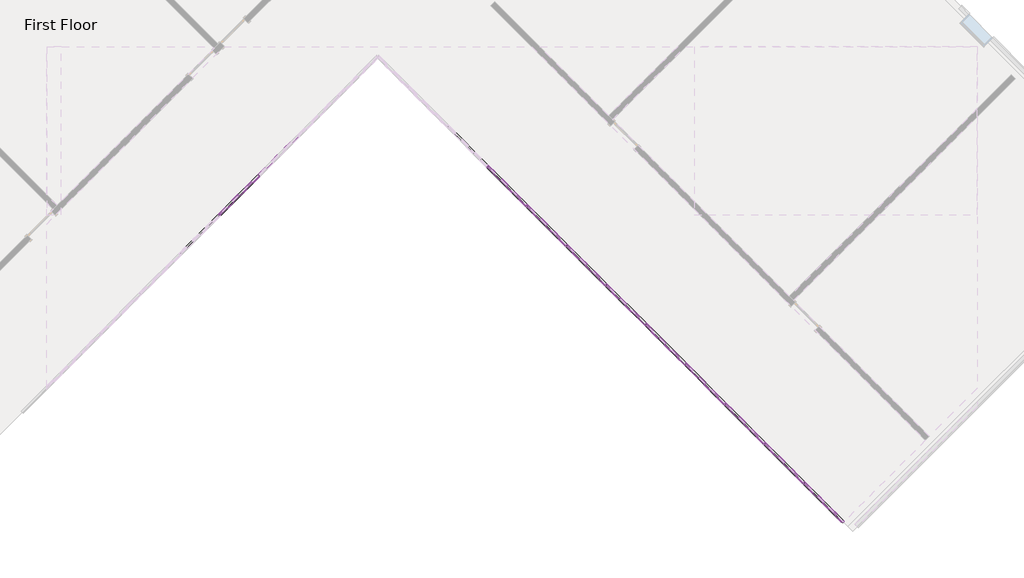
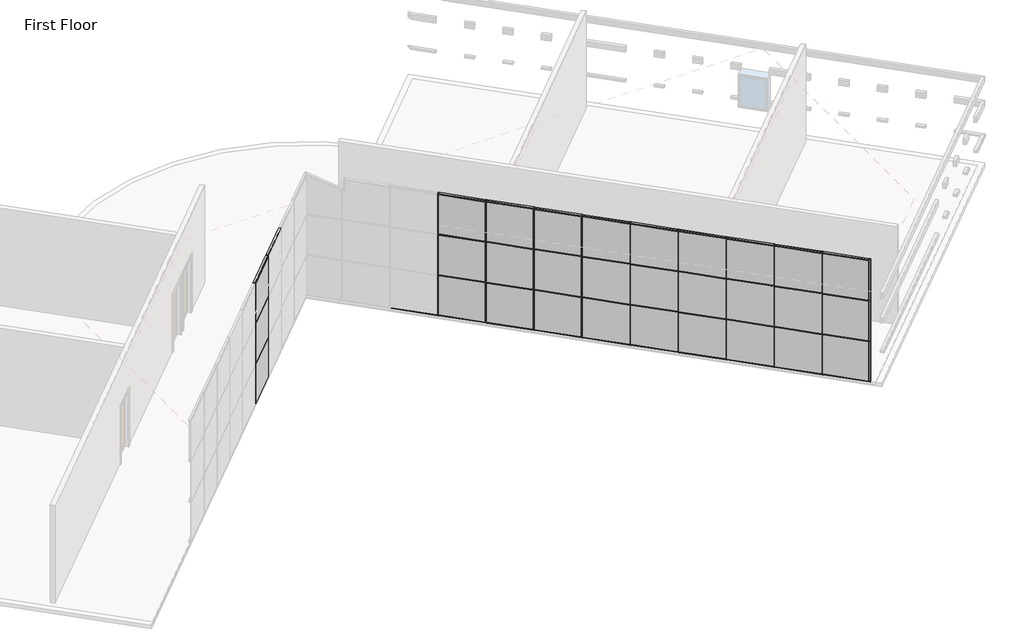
# One storey, part 2 of 7: 81 members, 30 plates.
"""IFC4 building model written with IfcOpenShell, lengths in millimetres."""

from ifc_helpers import new_model, si_unit, origin, place, context, project, spatial, transform, mapped, element, save
from components import member_4c538f64, member_155beb68, member_9952366a, member_42be4715, member_6121af53, member_3d68c01a, member_b87a50da, system_panel_glazed_ca335f2d, system_panel_glazed_da345f4e, system_panel_glazed_1c4746fc, system_panel_glazed_f1e4c5b0, system_panel_solid_cb9a7247, system_panel_solid_64e13288, system_panel_solid_2f1037e2

model = new_model("IFC4")

# Units and contexts
model_context = context("Model", 3, world=origin())
ifc_project = project(units=[si_unit("LENGTHUNIT", "METRE", prefix="MILLI")], contexts=[model_context])

# Site, building, storey
site = spatial("IfcSite", under=ifc_project)
building = spatial("IfcBuilding", under=site)
storey = spatial("IfcBuildingStorey", under=building, Name="First Floor", Elevation=0.0)

# Members
placement = place(None, origin())
member_shape = member_4c538f64(model_context)
element("IfcMember", 1, ObjectType="Rectangular Mullion : 1.5\" x 2.5\" Rectangular", at=placement, inside=storey, context=model_context, shape_type="MappedRepresentation", body=[
    mapped(member_shape, transform((9787.3975743, -9702.8925106, 0.0), x_axis=(0.0, 0.0, -1.0), y_axis=(0.7071067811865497, 0.7071067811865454, 0.0), z_axis=(0.7071067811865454, -0.7071067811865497, 0.0))),
])
member_2_shape = member_155beb68(model_context)
element("IfcMember", 2, ObjectType="Rectangular Mullion : 1.5\" x 2.5\" Rectangular", at=placement, inside=storey, context=model_context, shape_type="MappedRepresentation", body=[
    mapped(member_2_shape, transform((-6100.9205681, -280.3587758, 0.0), x_axis=(-0.7071067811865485, -0.7071067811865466, 0.0), y_axis=(-0.7071067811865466, 0.7071067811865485, 0.0), z_axis=(0.0, 0.0, -1.0))),
])
element("IfcMember", 3, ObjectType="Rectangular Mullion : 1.5\" x 2.5\" Rectangular", at=placement, inside=storey, context=model_context, shape_type="MappedRepresentation", body=[
    mapped(member_2_shape, transform((-7178.5513026, -1357.9895103, 0.0), x_axis=(-0.7071067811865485, -0.7071067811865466, 0.0), y_axis=(-0.7071067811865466, 0.7071067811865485, 0.0), z_axis=(0.0, 0.0, -1.0))),
])
element("IfcMember", 4, ObjectType="Rectangular Mullion : 1.5\" x 2.5\" Rectangular", at=placement, inside=storey, context=model_context, shape_type="MappedRepresentation", body=[
    mapped(member_2_shape, transform((8736.7076079, -8652.2025442, 0.0), x_axis=(-0.7071067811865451, 0.70710678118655, 0.0), y_axis=(0.70710678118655, 0.7071067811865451, 0.0), z_axis=(0.0, 0.0, -1.0))),
])
element("IfcMember", 5, ObjectType="Rectangular Mullion : 1.5\" x 2.5\" Rectangular", at=placement, inside=storey, context=model_context, shape_type="MappedRepresentation", body=[
    mapped(member_2_shape, transform((7659.0768734, -7574.5718097, 0.0), x_axis=(-0.7071067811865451, 0.70710678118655, 0.0), y_axis=(0.70710678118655, 0.7071067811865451, 0.0), z_axis=(0.0, 0.0, -1.0))),
])
element("IfcMember", 6, ObjectType="Rectangular Mullion : 1.5\" x 2.5\" Rectangular", at=placement, inside=storey, context=model_context, shape_type="MappedRepresentation", body=[
    mapped(member_2_shape, transform((6581.4461389, -6496.9410752, 0.0), x_axis=(-0.7071067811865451, 0.70710678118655, 0.0), y_axis=(0.70710678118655, 0.7071067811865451, 0.0), z_axis=(0.0, 0.0, -1.0))),
])
element("IfcMember", 7, ObjectType="Rectangular Mullion : 1.5\" x 2.5\" Rectangular", at=placement, inside=storey, context=model_context, shape_type="MappedRepresentation", body=[
    mapped(member_2_shape, transform((5503.8154043, -5419.3103406, 0.0), x_axis=(-0.7071067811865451, 0.70710678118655, 0.0), y_axis=(0.70710678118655, 0.7071067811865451, 0.0), z_axis=(0.0, 0.0, -1.0))),
])
element("IfcMember", 8, ObjectType="Rectangular Mullion : 1.5\" x 2.5\" Rectangular", at=placement, inside=storey, context=model_context, shape_type="MappedRepresentation", body=[
    mapped(member_2_shape, transform((4426.1846698, -4341.6796061, 0.0), x_axis=(-0.7071067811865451, 0.70710678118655, 0.0), y_axis=(0.70710678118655, 0.7071067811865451, 0.0), z_axis=(0.0, 0.0, -1.0))),
])
element("IfcMember", 9, ObjectType="Rectangular Mullion : 1.5\" x 2.5\" Rectangular", at=placement, inside=storey, context=model_context, shape_type="MappedRepresentation", body=[
    mapped(member_2_shape, transform((3348.5539353, -3264.0488716, 0.0), x_axis=(-0.7071067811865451, 0.70710678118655, 0.0), y_axis=(0.70710678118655, 0.7071067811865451, 0.0), z_axis=(0.0, 0.0, -1.0))),
])
element("IfcMember", 10, ObjectType="Rectangular Mullion : 1.5\" x 2.5\" Rectangular", at=placement, inside=storey, context=model_context, shape_type="MappedRepresentation", body=[
    mapped(member_2_shape, transform((2270.9232008, -2186.418137, 0.0), x_axis=(-0.7071067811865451, 0.70710678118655, 0.0), y_axis=(0.70710678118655, 0.7071067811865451, 0.0), z_axis=(0.0, 0.0, -1.0))),
])
element("IfcMember", 11, ObjectType="Rectangular Mullion : 1.5\" x 2.5\" Rectangular", at=placement, inside=storey, context=model_context, shape_type="MappedRepresentation", body=[
    mapped(member_2_shape, transform((1193.2924662, -1108.7874025, 0.0), x_axis=(-0.7071067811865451, 0.70710678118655, 0.0), y_axis=(0.70710678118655, 0.7071067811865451, 0.0), z_axis=(0.0, 0.0, -1.0))),
])
element("IfcMember", 12, ObjectType="Rectangular Mullion : 1.5\" x 2.5\" Rectangular", at=placement, inside=storey, context=model_context, shape_type="MappedRepresentation", body=[
    mapped(member_2_shape, transform((115.6617317, -31.156668, 0.0), x_axis=(-0.7071067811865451, 0.70710678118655, 0.0), y_axis=(0.70710678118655, 0.7071067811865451, 0.0), z_axis=(0.0, 0.0, -1.0))),
])
member_3_shape = member_9952366a(model_context)
element("IfcMember", 13, ObjectType="Rectangular Mullion : 1.5\" x 2.5\" Rectangular", at=placement, inside=storey, context=model_context, shape_type="MappedRepresentation", body=[
    mapped(member_3_shape, transform((8750.1779921, -8665.6729284, 1524.0), x_axis=(0.0, 0.0, 1.0), y_axis=(0.7071067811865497, 0.7071067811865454, 0.0), z_axis=(-0.7071067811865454, 0.7071067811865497, 0.0))),
])
element("IfcMember", 14, ObjectType="Rectangular Mullion : 1.5\" x 2.5\" Rectangular", at=placement, inside=storey, context=model_context, shape_type="MappedRepresentation", body=[
    mapped(member_3_shape, transform((8750.1779921, -8665.6729284, 3048.0), x_axis=(0.0, 0.0, 1.0), y_axis=(0.7071067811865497, 0.7071067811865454, 0.0), z_axis=(-0.7071067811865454, 0.7071067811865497, 0.0))),
])
member_4_shape = member_42be4715(model_context)
element("IfcMember", 15, ObjectType="Rectangular Mullion : 1.5\" x 2.5\" Rectangular", at=placement, inside=storey, context=model_context, shape_type="MappedRepresentation", body=[
    mapped(member_4_shape, transform((-6087.4501839, -266.8883916, 1524.0), x_axis=(0.0, 0.0, 1.0), y_axis=(-0.7071067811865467, 0.7071067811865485, 0.0), z_axis=(-0.7071067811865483, -0.7071067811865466, 0.0))),
])
element("IfcMember", 16, ObjectType="Rectangular Mullion : 1.5\" x 2.5\" Rectangular", at=placement, inside=storey, context=model_context, shape_type="MappedRepresentation", body=[
    mapped(member_4_shape, transform((-7165.0809185, -1344.5191261, 1524.0), x_axis=(0.0, 0.0, 1.0), y_axis=(-0.7071067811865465, 0.7071067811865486, 0.0), z_axis=(-0.7071067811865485, -0.7071067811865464, 0.0))),
])
element("IfcMember", 17, ObjectType="Rectangular Mullion : 1.5\" x 2.5\" Rectangular", at=placement, inside=storey, context=model_context, shape_type="MappedRepresentation", body=[
    mapped(member_4_shape, transform((-6087.4501839, -266.8883916, 3048.0), x_axis=(0.0, 0.0, 1.0), y_axis=(-0.7071067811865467, 0.7071067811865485, 0.0), z_axis=(-0.7071067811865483, -0.7071067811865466, 0.0))),
])
element("IfcMember", 18, ObjectType="Rectangular Mullion : 1.5\" x 2.5\" Rectangular", at=placement, inside=storey, context=model_context, shape_type="MappedRepresentation", body=[
    mapped(member_4_shape, transform((-7165.0809185, -1344.5191261, 3048.0), x_axis=(0.0, 0.0, 1.0), y_axis=(-0.7071067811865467, 0.7071067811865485, 0.0), z_axis=(-0.7071067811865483, -0.7071067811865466, 0.0))),
])
element("IfcMember", 19, ObjectType="Rectangular Mullion : 1.5\" x 2.5\" Rectangular", at=placement, inside=storey, context=model_context, shape_type="MappedRepresentation", body=[
    mapped(member_4_shape, transform((7672.5472576, -7588.0421939, 1524.0), x_axis=(0.0, 0.0, 1.0), y_axis=(0.7071067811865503, 0.7071067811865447, 0.0), z_axis=(-0.7071067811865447, 0.7071067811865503, 0.0))),
])
element("IfcMember", 20, ObjectType="Rectangular Mullion : 1.5\" x 2.5\" Rectangular", at=placement, inside=storey, context=model_context, shape_type="MappedRepresentation", body=[
    mapped(member_4_shape, transform((6594.9165231, -6510.4114593, 1524.0), x_axis=(0.0, 0.0, 1.0), y_axis=(0.7071067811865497, 0.7071067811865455, 0.0), z_axis=(-0.7071067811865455, 0.7071067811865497, 0.0))),
])
element("IfcMember", 21, ObjectType="Rectangular Mullion : 1.5\" x 2.5\" Rectangular", at=placement, inside=storey, context=model_context, shape_type="MappedRepresentation", body=[
    mapped(member_4_shape, transform((5517.2857885, -5432.7807248, 1524.0), x_axis=(0.0, 0.0, 1.0), y_axis=(0.70710678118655, 0.707106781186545, 0.0), z_axis=(-0.707106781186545, 0.70710678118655, 0.0))),
])
element("IfcMember", 22, ObjectType="Rectangular Mullion : 1.5\" x 2.5\" Rectangular", at=placement, inside=storey, context=model_context, shape_type="MappedRepresentation", body=[
    mapped(member_4_shape, transform((4439.655054, -4355.1499903, 1524.0), x_axis=(0.0, 0.0, 1.0), y_axis=(0.70710678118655, 0.707106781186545, 0.0), z_axis=(-0.707106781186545, 0.70710678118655, 0.0))),
])
element("IfcMember", 23, ObjectType="Rectangular Mullion : 1.5\" x 2.5\" Rectangular", at=placement, inside=storey, context=model_context, shape_type="MappedRepresentation", body=[
    mapped(member_4_shape, transform((3362.0243195, -3277.5192558, 1524.0), x_axis=(0.0, 0.0, 1.0), y_axis=(0.70710678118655, 0.707106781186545, 0.0), z_axis=(-0.707106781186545, 0.70710678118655, 0.0))),
])
element("IfcMember", 24, ObjectType="Rectangular Mullion : 1.5\" x 2.5\" Rectangular", at=placement, inside=storey, context=model_context, shape_type="MappedRepresentation", body=[
    mapped(member_4_shape, transform((2284.3935849, -2199.8885212, 1524.0), x_axis=(0.0, 0.0, 1.0), y_axis=(0.70710678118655, 0.707106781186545, 0.0), z_axis=(-0.707106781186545, 0.70710678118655, 0.0))),
])
element("IfcMember", 25, ObjectType="Rectangular Mullion : 1.5\" x 2.5\" Rectangular", at=placement, inside=storey, context=model_context, shape_type="MappedRepresentation", body=[
    mapped(member_4_shape, transform((1206.7628504, -1122.2577867, 1524.0), x_axis=(0.0, 0.0, 1.0), y_axis=(0.7071067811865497, 0.7071067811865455, 0.0), z_axis=(-0.7071067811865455, 0.7071067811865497, 0.0))),
])
element("IfcMember", 26, ObjectType="Rectangular Mullion : 1.5\" x 2.5\" Rectangular", at=placement, inside=storey, context=model_context, shape_type="MappedRepresentation", body=[
    mapped(member_4_shape, transform((129.1321159, -44.6270522, 1524.0), x_axis=(0.0, 0.0, 1.0), y_axis=(0.7071067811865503, 0.7071067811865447, 0.0), z_axis=(-0.7071067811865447, 0.7071067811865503, 0.0))),
])
element("IfcMember", 27, ObjectType="Rectangular Mullion : 1.5\" x 2.5\" Rectangular", at=placement, inside=storey, context=model_context, shape_type="MappedRepresentation", body=[
    mapped(member_4_shape, transform((7672.5472576, -7588.0421939, 3048.0), x_axis=(0.0, 0.0, 1.0), y_axis=(0.7071067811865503, 0.7071067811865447, 0.0), z_axis=(-0.7071067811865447, 0.7071067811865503, 0.0))),
])
element("IfcMember", 28, ObjectType="Rectangular Mullion : 1.5\" x 2.5\" Rectangular", at=placement, inside=storey, context=model_context, shape_type="MappedRepresentation", body=[
    mapped(member_4_shape, transform((6594.9165231, -6510.4114593, 3048.0), x_axis=(0.0, 0.0, 1.0), y_axis=(0.7071067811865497, 0.7071067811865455, 0.0), z_axis=(-0.7071067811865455, 0.7071067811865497, 0.0))),
])
element("IfcMember", 29, ObjectType="Rectangular Mullion : 1.5\" x 2.5\" Rectangular", at=placement, inside=storey, context=model_context, shape_type="MappedRepresentation", body=[
    mapped(member_4_shape, transform((5517.2857885, -5432.7807248, 3048.0), x_axis=(0.0, 0.0, 1.0), y_axis=(0.7071067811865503, 0.7071067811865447, 0.0), z_axis=(-0.7071067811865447, 0.7071067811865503, 0.0))),
])
element("IfcMember", 30, ObjectType="Rectangular Mullion : 1.5\" x 2.5\" Rectangular", at=placement, inside=storey, context=model_context, shape_type="MappedRepresentation", body=[
    mapped(member_4_shape, transform((4439.655054, -4355.1499903, 3048.0), x_axis=(0.0, 0.0, 1.0), y_axis=(0.7071067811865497, 0.7071067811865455, 0.0), z_axis=(-0.7071067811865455, 0.7071067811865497, 0.0))),
])
element("IfcMember", 31, ObjectType="Rectangular Mullion : 1.5\" x 2.5\" Rectangular", at=placement, inside=storey, context=model_context, shape_type="MappedRepresentation", body=[
    mapped(member_4_shape, transform((3362.0243195, -3277.5192558, 3048.0), x_axis=(0.0, 0.0, 1.0), y_axis=(0.70710678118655, 0.707106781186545, 0.0), z_axis=(-0.707106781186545, 0.70710678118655, 0.0))),
])
element("IfcMember", 32, ObjectType="Rectangular Mullion : 1.5\" x 2.5\" Rectangular", at=placement, inside=storey, context=model_context, shape_type="MappedRepresentation", body=[
    mapped(member_4_shape, transform((2284.3935849, -2199.8885212, 3048.0), x_axis=(0.0, 0.0, 1.0), y_axis=(0.70710678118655, 0.707106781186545, 0.0), z_axis=(-0.707106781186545, 0.70710678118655, 0.0))),
])
element("IfcMember", 33, ObjectType="Rectangular Mullion : 1.5\" x 2.5\" Rectangular", at=placement, inside=storey, context=model_context, shape_type="MappedRepresentation", body=[
    mapped(member_4_shape, transform((1206.7628504, -1122.2577867, 3048.0), x_axis=(0.0, 0.0, 1.0), y_axis=(0.7071067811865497, 0.7071067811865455, 0.0), z_axis=(-0.7071067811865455, 0.7071067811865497, 0.0))),
])
element("IfcMember", 34, ObjectType="Rectangular Mullion : 1.5\" x 2.5\" Rectangular", at=placement, inside=storey, context=model_context, shape_type="MappedRepresentation", body=[
    mapped(member_4_shape, transform((129.1321159, -44.6270522, 3048.0), x_axis=(0.0, 0.0, 1.0), y_axis=(0.7071067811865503, 0.7071067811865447, 0.0), z_axis=(-0.7071067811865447, 0.7071067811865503, 0.0))),
])
member_5_shape = member_6121af53(model_context)
element("IfcMember", 35, ObjectType="Rectangular Mullion : 1.5\" x 2.5\" Rectangular", at=placement, inside=storey, context=model_context, shape_type="MappedRepresentation", body=[
    mapped(member_5_shape, transform((-6114.3909523, -293.82916, 0.0), x_axis=(0.0, 0.0, -1.0), y_axis=(-0.7071067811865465, 0.7071067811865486, 0.0), z_axis=(0.7071067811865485, 0.7071067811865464, 0.0))),
])
element("IfcMember", 36, ObjectType="Rectangular Mullion : 1.5\" x 2.5\" Rectangular", at=placement, inside=storey, context=model_context, shape_type="MappedRepresentation", body=[
    mapped(member_5_shape, transform((-7192.0216868, -1371.4598945, 0.0), x_axis=(0.0, 0.0, -1.0), y_axis=(-0.7071067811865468, 0.7071067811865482, 0.0), z_axis=(0.7071067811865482, 0.7071067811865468, 0.0))),
])
element("IfcMember", 37, ObjectType="Rectangular Mullion : 1.5\" x 2.5\" Rectangular", at=placement, inside=storey, context=model_context, shape_type="MappedRepresentation", body=[
    mapped(member_5_shape, transform((8723.2372237, -8638.73216, 0.0), x_axis=(0.0, 0.0, -1.0), y_axis=(0.7071067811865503, 0.7071067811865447, 0.0), z_axis=(0.7071067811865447, -0.7071067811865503, 0.0))),
])
element("IfcMember", 38, ObjectType="Rectangular Mullion : 1.5\" x 2.5\" Rectangular", at=placement, inside=storey, context=model_context, shape_type="MappedRepresentation", body=[
    mapped(member_5_shape, transform((7645.6064892, -7561.1014255, 0.0), x_axis=(0.0, 0.0, -1.0), y_axis=(0.7071067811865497, 0.7071067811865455, 0.0), z_axis=(0.7071067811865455, -0.7071067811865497, 0.0))),
])
element("IfcMember", 39, ObjectType="Rectangular Mullion : 1.5\" x 2.5\" Rectangular", at=placement, inside=storey, context=model_context, shape_type="MappedRepresentation", body=[
    mapped(member_5_shape, transform((6567.9757547, -6483.470691, 0.0), x_axis=(0.0, 0.0, -1.0), y_axis=(0.70710678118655, 0.707106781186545, 0.0), z_axis=(0.707106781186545, -0.70710678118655, 0.0))),
])
element("IfcMember", 40, ObjectType="Rectangular Mullion : 1.5\" x 2.5\" Rectangular", at=placement, inside=storey, context=model_context, shape_type="MappedRepresentation", body=[
    mapped(member_5_shape, transform((5490.3450202, -5405.8399565, 0.0), x_axis=(0.0, 0.0, -1.0), y_axis=(0.70710678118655, 0.707106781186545, 0.0), z_axis=(0.707106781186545, -0.70710678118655, 0.0))),
])
element("IfcMember", 41, ObjectType="Rectangular Mullion : 1.5\" x 2.5\" Rectangular", at=placement, inside=storey, context=model_context, shape_type="MappedRepresentation", body=[
    mapped(member_5_shape, transform((4412.7142856, -4328.2092219, 0.0), x_axis=(0.0, 0.0, -1.0), y_axis=(0.70710678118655, 0.707106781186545, 0.0), z_axis=(0.707106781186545, -0.70710678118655, 0.0))),
])
element("IfcMember", 42, ObjectType="Rectangular Mullion : 1.5\" x 2.5\" Rectangular", at=placement, inside=storey, context=model_context, shape_type="MappedRepresentation", body=[
    mapped(member_5_shape, transform((3335.0835511, -3250.5784874, 0.0), x_axis=(0.0, 0.0, -1.0), y_axis=(0.70710678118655, 0.707106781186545, 0.0), z_axis=(0.707106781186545, -0.70710678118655, 0.0))),
])
element("IfcMember", 43, ObjectType="Rectangular Mullion : 1.5\" x 2.5\" Rectangular", at=placement, inside=storey, context=model_context, shape_type="MappedRepresentation", body=[
    mapped(member_5_shape, transform((2257.4528166, -2172.9477529, 0.0), x_axis=(0.0, 0.0, -1.0), y_axis=(0.70710678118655, 0.707106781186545, 0.0), z_axis=(0.707106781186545, -0.70710678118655, 0.0))),
])
element("IfcMember", 44, ObjectType="Rectangular Mullion : 1.5\" x 2.5\" Rectangular", at=placement, inside=storey, context=model_context, shape_type="MappedRepresentation", body=[
    mapped(member_5_shape, transform((1179.8220821, -1095.3170183, 0.0), x_axis=(0.0, 0.0, -1.0), y_axis=(0.70710678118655, 0.707106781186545, 0.0), z_axis=(0.707106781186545, -0.70710678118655, 0.0))),
])
element("IfcMember", 45, ObjectType="Rectangular Mullion : 1.5\" x 2.5\" Rectangular", at=placement, inside=storey, context=model_context, shape_type="MappedRepresentation", body=[
    mapped(member_5_shape, transform((102.1913475, -17.6862838, 0.0), x_axis=(0.0, 0.0, -1.0), y_axis=(0.7071067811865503, 0.7071067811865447, 0.0), z_axis=(0.7071067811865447, -0.7071067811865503, 0.0))),
])
element("IfcMember", 46, ObjectType="Rectangular Mullion : 1.5\" x 2.5\" Rectangular", at=placement, inside=storey, context=model_context, shape_type="MappedRepresentation", body=[
    mapped(member_shape, transform((8750.1779921, -8665.6729284, 4572.0), x_axis=(0.0, 0.0, 1.0), y_axis=(0.7071067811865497, 0.7071067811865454, 0.0), z_axis=(-0.7071067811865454, 0.7071067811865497, 0.0))),
])
element("IfcMember", 47, ObjectType="Rectangular Mullion : 1.5\" x 2.5\" Rectangular", at=placement, inside=storey, context=model_context, shape_type="MappedRepresentation", body=[
    mapped(member_5_shape, transform((-6087.4501839, -266.8883916, 4567.7666667), x_axis=(0.0, 0.0, 1.0), y_axis=(-0.7071067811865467, 0.7071067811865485, 0.0), z_axis=(-0.7071067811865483, -0.7071067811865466, 0.0))),
])
element("IfcMember", 48, ObjectType="Rectangular Mullion : 1.5\" x 2.5\" Rectangular", at=placement, inside=storey, context=model_context, shape_type="MappedRepresentation", body=[
    mapped(member_5_shape, transform((-7165.0809185, -1344.5191261, 4567.7666667), x_axis=(0.0, 0.0, 1.0), y_axis=(-0.7071067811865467, 0.7071067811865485, 0.0), z_axis=(-0.7071067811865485, -0.7071067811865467, 0.0))),
])
element("IfcMember", 49, ObjectType="Rectangular Mullion : 1.5\" x 2.5\" Rectangular", at=placement, inside=storey, context=model_context, shape_type="MappedRepresentation", body=[
    mapped(member_5_shape, transform((7672.5472576, -7588.0421939, 4572.0), x_axis=(0.0, 0.0, 1.0), y_axis=(0.7071067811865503, 0.7071067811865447, 0.0), z_axis=(-0.7071067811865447, 0.7071067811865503, 0.0))),
])
element("IfcMember", 50, ObjectType="Rectangular Mullion : 1.5\" x 2.5\" Rectangular", at=placement, inside=storey, context=model_context, shape_type="MappedRepresentation", body=[
    mapped(member_5_shape, transform((6594.9165231, -6510.4114593, 4572.0), x_axis=(0.0, 0.0, 1.0), y_axis=(0.7071067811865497, 0.7071067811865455, 0.0), z_axis=(-0.7071067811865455, 0.7071067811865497, 0.0))),
])
element("IfcMember", 51, ObjectType="Rectangular Mullion : 1.5\" x 2.5\" Rectangular", at=placement, inside=storey, context=model_context, shape_type="MappedRepresentation", body=[
    mapped(member_5_shape, transform((5517.2857885, -5432.7807248, 4572.0), x_axis=(0.0, 0.0, 1.0), y_axis=(0.7071067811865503, 0.7071067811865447, 0.0), z_axis=(-0.7071067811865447, 0.7071067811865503, 0.0))),
])
element("IfcMember", 52, ObjectType="Rectangular Mullion : 1.5\" x 2.5\" Rectangular", at=placement, inside=storey, context=model_context, shape_type="MappedRepresentation", body=[
    mapped(member_5_shape, transform((4439.655054, -4355.1499903, 4572.0), x_axis=(0.0, 0.0, 1.0), y_axis=(0.7071067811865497, 0.7071067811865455, 0.0), z_axis=(-0.7071067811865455, 0.7071067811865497, 0.0))),
])
element("IfcMember", 53, ObjectType="Rectangular Mullion : 1.5\" x 2.5\" Rectangular", at=placement, inside=storey, context=model_context, shape_type="MappedRepresentation", body=[
    mapped(member_5_shape, transform((3362.0243195, -3277.5192558, 4572.0), x_axis=(0.0, 0.0, 1.0), y_axis=(0.70710678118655, 0.707106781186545, 0.0), z_axis=(-0.707106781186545, 0.70710678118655, 0.0))),
])
element("IfcMember", 54, ObjectType="Rectangular Mullion : 1.5\" x 2.5\" Rectangular", at=placement, inside=storey, context=model_context, shape_type="MappedRepresentation", body=[
    mapped(member_5_shape, transform((2284.3935849, -2199.8885212, 4572.0), x_axis=(0.0, 0.0, 1.0), y_axis=(0.70710678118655, 0.707106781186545, 0.0), z_axis=(-0.707106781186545, 0.70710678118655, 0.0))),
])
element("IfcMember", 55, ObjectType="Rectangular Mullion : 1.5\" x 2.5\" Rectangular", at=placement, inside=storey, context=model_context, shape_type="MappedRepresentation", body=[
    mapped(member_5_shape, transform((1206.7628504, -1122.2577867, 4572.0), x_axis=(0.0, 0.0, 1.0), y_axis=(0.70710678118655, 0.707106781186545, 0.0), z_axis=(-0.707106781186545, 0.70710678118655, 0.0))),
])
element("IfcMember", 56, ObjectType="Rectangular Mullion : 1.5\" x 2.5\" Rectangular", at=placement, inside=storey, context=model_context, shape_type="MappedRepresentation", body=[
    mapped(member_5_shape, transform((129.1321159, -44.6270522, 4572.0), x_axis=(0.0, 0.0, 1.0), y_axis=(0.70710678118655, 0.707106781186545, 0.0), z_axis=(-0.707106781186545, 0.70710678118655, 0.0))),
])
element("IfcMember", 57, ObjectType="Rectangular Mullion : 1.5\" x 2.5\" Rectangular", at=placement, inside=storey, context=model_context, shape_type="MappedRepresentation", body=[
    mapped(member_2_shape, transform((-6100.9205681, -280.3587758, 1524.0), x_axis=(-0.7071067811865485, -0.7071067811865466, 0.0), y_axis=(-0.7071067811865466, 0.7071067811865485, 0.0), z_axis=(0.0, 0.0, -1.0))),
])
element("IfcMember", 58, ObjectType="Rectangular Mullion : 1.5\" x 2.5\" Rectangular", at=placement, inside=storey, context=model_context, shape_type="MappedRepresentation", body=[
    mapped(member_2_shape, transform((-7178.5513026, -1357.9895103, 1524.0), x_axis=(-0.7071067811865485, -0.7071067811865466, 0.0), y_axis=(-0.7071067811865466, 0.7071067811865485, 0.0), z_axis=(0.0, 0.0, -1.0))),
])
element("IfcMember", 59, ObjectType="Rectangular Mullion : 1.5\" x 2.5\" Rectangular", at=placement, inside=storey, context=model_context, shape_type="MappedRepresentation", body=[
    mapped(member_2_shape, transform((8736.7076079, -8652.2025442, 1524.0), x_axis=(-0.7071067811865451, 0.70710678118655, 0.0), y_axis=(0.70710678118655, 0.7071067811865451, 0.0), z_axis=(0.0, 0.0, -1.0))),
])
element("IfcMember", 60, ObjectType="Rectangular Mullion : 1.5\" x 2.5\" Rectangular", at=placement, inside=storey, context=model_context, shape_type="MappedRepresentation", body=[
    mapped(member_2_shape, transform((7659.0768734, -7574.5718097, 1524.0), x_axis=(-0.7071067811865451, 0.70710678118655, 0.0), y_axis=(0.70710678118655, 0.7071067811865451, 0.0), z_axis=(0.0, 0.0, -1.0))),
])
element("IfcMember", 61, ObjectType="Rectangular Mullion : 1.5\" x 2.5\" Rectangular", at=placement, inside=storey, context=model_context, shape_type="MappedRepresentation", body=[
    mapped(member_2_shape, transform((6581.4461389, -6496.9410752, 1524.0), x_axis=(-0.7071067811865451, 0.70710678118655, 0.0), y_axis=(0.70710678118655, 0.7071067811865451, 0.0), z_axis=(0.0, 0.0, -1.0))),
])
element("IfcMember", 62, ObjectType="Rectangular Mullion : 1.5\" x 2.5\" Rectangular", at=placement, inside=storey, context=model_context, shape_type="MappedRepresentation", body=[
    mapped(member_2_shape, transform((5503.8154043, -5419.3103406, 1524.0), x_axis=(-0.7071067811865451, 0.70710678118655, 0.0), y_axis=(0.70710678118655, 0.7071067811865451, 0.0), z_axis=(0.0, 0.0, -1.0))),
])
element("IfcMember", 63, ObjectType="Rectangular Mullion : 1.5\" x 2.5\" Rectangular", at=placement, inside=storey, context=model_context, shape_type="MappedRepresentation", body=[
    mapped(member_2_shape, transform((4426.1846698, -4341.6796061, 1524.0), x_axis=(-0.7071067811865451, 0.70710678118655, 0.0), y_axis=(0.70710678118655, 0.7071067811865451, 0.0), z_axis=(0.0, 0.0, -1.0))),
])
element("IfcMember", 64, ObjectType="Rectangular Mullion : 1.5\" x 2.5\" Rectangular", at=placement, inside=storey, context=model_context, shape_type="MappedRepresentation", body=[
    mapped(member_2_shape, transform((3348.5539353, -3264.0488716, 1524.0), x_axis=(-0.7071067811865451, 0.70710678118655, 0.0), y_axis=(0.70710678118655, 0.7071067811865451, 0.0), z_axis=(0.0, 0.0, -1.0))),
])
element("IfcMember", 65, ObjectType="Rectangular Mullion : 1.5\" x 2.5\" Rectangular", at=placement, inside=storey, context=model_context, shape_type="MappedRepresentation", body=[
    mapped(member_2_shape, transform((2270.9232008, -2186.418137, 1524.0), x_axis=(-0.7071067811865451, 0.70710678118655, 0.0), y_axis=(0.70710678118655, 0.7071067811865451, 0.0), z_axis=(0.0, 0.0, -1.0))),
])
element("IfcMember", 66, ObjectType="Rectangular Mullion : 1.5\" x 2.5\" Rectangular", at=placement, inside=storey, context=model_context, shape_type="MappedRepresentation", body=[
    mapped(member_2_shape, transform((1193.2924662, -1108.7874025, 1524.0), x_axis=(-0.7071067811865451, 0.70710678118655, 0.0), y_axis=(0.70710678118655, 0.7071067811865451, 0.0), z_axis=(0.0, 0.0, -1.0))),
])
element("IfcMember", 67, ObjectType="Rectangular Mullion : 1.5\" x 2.5\" Rectangular", at=placement, inside=storey, context=model_context, shape_type="MappedRepresentation", body=[
    mapped(member_2_shape, transform((115.6617317, -31.156668, 1524.0), x_axis=(-0.7071067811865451, 0.70710678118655, 0.0), y_axis=(0.70710678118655, 0.7071067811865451, 0.0), z_axis=(0.0, 0.0, -1.0))),
])
member_6_shape = member_3d68c01a(model_context)
element("IfcMember", 68, ObjectType="Rectangular Mullion : 1.5\" x 2.5\" Rectangular", at=placement, inside=storey, context=model_context, shape_type="MappedRepresentation", body=[
    mapped(member_6_shape, transform((-6100.9205681, -280.3587758, 3048.0), x_axis=(-0.7071067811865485, -0.7071067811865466, 0.0), y_axis=(-0.7071067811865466, 0.7071067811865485, 0.0), z_axis=(0.0, 0.0, -1.0))),
])
element("IfcMember", 69, ObjectType="Rectangular Mullion : 1.5\" x 2.5\" Rectangular", at=placement, inside=storey, context=model_context, shape_type="MappedRepresentation", body=[
    mapped(member_6_shape, transform((-7178.5513026, -1357.9895103, 3048.0), x_axis=(-0.7071067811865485, -0.7071067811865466, 0.0), y_axis=(-0.7071067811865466, 0.7071067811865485, 0.0), z_axis=(0.0, 0.0, -1.0))),
])
member_7_shape = member_b87a50da(model_context)
element("IfcMember", 70, ObjectType="Rectangular Mullion : 1.5\" x 2.5\" Rectangular", at=placement, inside=storey, context=model_context, shape_type="MappedRepresentation", body=[
    mapped(member_7_shape, transform((9814.3383427, -9729.833279, 1524.0), x_axis=(0.7071067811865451, -0.70710678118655, 0.0), y_axis=(0.70710678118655, 0.7071067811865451, 0.0), z_axis=(0.0, 0.0, 1.0))),
])
element("IfcMember", 71, ObjectType="Rectangular Mullion : 1.5\" x 2.5\" Rectangular", at=placement, inside=storey, context=model_context, shape_type="MappedRepresentation", body=[
    mapped(member_7_shape, transform((9814.3383427, -9729.833279, 3048.0), x_axis=(0.7071067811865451, -0.70710678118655, 0.0), y_axis=(0.70710678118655, 0.7071067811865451, 0.0), z_axis=(0.0, 0.0, 1.0))),
])
element("IfcMember", 72, ObjectType="Rectangular Mullion : 1.5\" x 2.5\" Rectangular", at=placement, inside=storey, context=model_context, shape_type="MappedRepresentation", body=[
    mapped(member_2_shape, transform((8736.7076079, -8652.2025442, 3048.0), x_axis=(-0.7071067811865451, 0.70710678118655, 0.0), y_axis=(0.70710678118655, 0.7071067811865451, 0.0), z_axis=(0.0, 0.0, -1.0))),
])
element("IfcMember", 73, ObjectType="Rectangular Mullion : 1.5\" x 2.5\" Rectangular", at=placement, inside=storey, context=model_context, shape_type="MappedRepresentation", body=[
    mapped(member_2_shape, transform((7659.0768734, -7574.5718097, 3048.0), x_axis=(-0.7071067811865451, 0.70710678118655, 0.0), y_axis=(0.70710678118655, 0.7071067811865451, 0.0), z_axis=(0.0, 0.0, -1.0))),
])
element("IfcMember", 74, ObjectType="Rectangular Mullion : 1.5\" x 2.5\" Rectangular", at=placement, inside=storey, context=model_context, shape_type="MappedRepresentation", body=[
    mapped(member_2_shape, transform((6581.4461389, -6496.9410752, 3048.0), x_axis=(-0.7071067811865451, 0.70710678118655, 0.0), y_axis=(0.70710678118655, 0.7071067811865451, 0.0), z_axis=(0.0, 0.0, -1.0))),
])
element("IfcMember", 75, ObjectType="Rectangular Mullion : 1.5\" x 2.5\" Rectangular", at=placement, inside=storey, context=model_context, shape_type="MappedRepresentation", body=[
    mapped(member_2_shape, transform((5503.8154043, -5419.3103406, 3048.0), x_axis=(-0.7071067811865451, 0.70710678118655, 0.0), y_axis=(0.70710678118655, 0.7071067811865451, 0.0), z_axis=(0.0, 0.0, -1.0))),
])
element("IfcMember", 76, ObjectType="Rectangular Mullion : 1.5\" x 2.5\" Rectangular", at=placement, inside=storey, context=model_context, shape_type="MappedRepresentation", body=[
    mapped(member_2_shape, transform((4426.1846698, -4341.6796061, 3048.0), x_axis=(-0.7071067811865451, 0.70710678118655, 0.0), y_axis=(0.70710678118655, 0.7071067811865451, 0.0), z_axis=(0.0, 0.0, -1.0))),
])
element("IfcMember", 77, ObjectType="Rectangular Mullion : 1.5\" x 2.5\" Rectangular", at=placement, inside=storey, context=model_context, shape_type="MappedRepresentation", body=[
    mapped(member_2_shape, transform((3348.5539353, -3264.0488716, 3048.0), x_axis=(-0.7071067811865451, 0.70710678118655, 0.0), y_axis=(0.70710678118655, 0.7071067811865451, 0.0), z_axis=(0.0, 0.0, -1.0))),
])
element("IfcMember", 78, ObjectType="Rectangular Mullion : 1.5\" x 2.5\" Rectangular", at=placement, inside=storey, context=model_context, shape_type="MappedRepresentation", body=[
    mapped(member_2_shape, transform((2270.9232008, -2186.418137, 3048.0), x_axis=(-0.7071067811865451, 0.70710678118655, 0.0), y_axis=(0.70710678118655, 0.7071067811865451, 0.0), z_axis=(0.0, 0.0, -1.0))),
])
element("IfcMember", 79, ObjectType="Rectangular Mullion : 1.5\" x 2.5\" Rectangular", at=placement, inside=storey, context=model_context, shape_type="MappedRepresentation", body=[
    mapped(member_2_shape, transform((1193.2924662, -1108.7874025, 3048.0), x_axis=(-0.7071067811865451, 0.70710678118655, 0.0), y_axis=(0.70710678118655, 0.7071067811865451, 0.0), z_axis=(0.0, 0.0, -1.0))),
])
element("IfcMember", 80, ObjectType="Rectangular Mullion : 1.5\" x 2.5\" Rectangular", at=placement, inside=storey, context=model_context, shape_type="MappedRepresentation", body=[
    mapped(member_2_shape, transform((115.6617317, -31.156668, 3048.0), x_axis=(-0.7071067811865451, 0.70710678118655, 0.0), y_axis=(0.70710678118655, 0.7071067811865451, 0.0), z_axis=(0.0, 0.0, -1.0))),
])
element("IfcMember", 81, ObjectType="Rectangular Mullion : 1.5\" x 2.5\" Rectangular", at=placement, inside=storey, context=model_context, shape_type="MappedRepresentation", body=[
    mapped(member_7_shape, transform((9814.3383427, -9729.833279, 4572.0), x_axis=(0.7071067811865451, -0.70710678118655, 0.0), y_axis=(0.70710678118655, 0.7071067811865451, 0.0), z_axis=(0.0, 0.0, 1.0))),
])

# Plates
system_panel_glazed_shape = system_panel_glazed_ca335f2d(model_context)
element("IfcPlate", 82, ObjectType="System Panel : Glazed", at=placement, inside=storey, context=model_context, shape_type="MappedRepresentation", body=[
    mapped(system_panel_glazed_shape, transform((9268.7877832, -9184.2827195, 38.1), x_axis=(-0.7071067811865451, 0.70710678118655, 0.0), y_axis=(-0.70710678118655, -0.7071067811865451, 0.0), z_axis=(0.0, 0.0, 1.0))),
])
system_panel_glazed_2_shape = system_panel_glazed_da345f4e(model_context)
element("IfcPlate", 83, ObjectType="System Panel : Glazed", at=placement, inside=storey, context=model_context, shape_type="MappedRepresentation", body=[
    mapped(system_panel_glazed_2_shape, transform((8197.8922407, -8113.387177, 38.1), x_axis=(-0.7071067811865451, 0.70710678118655, 0.0), y_axis=(-0.70710678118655, -0.7071067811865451, 0.0), z_axis=(0.0, 0.0, 1.0))),
])
element("IfcPlate", 84, ObjectType="System Panel : Glazed", at=placement, inside=storey, context=model_context, shape_type="MappedRepresentation", body=[
    mapped(system_panel_glazed_2_shape, transform((7120.2615061, -7035.7564424, 38.1), x_axis=(-0.7071067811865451, 0.70710678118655, 0.0), y_axis=(-0.70710678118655, -0.7071067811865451, 0.0), z_axis=(0.0, 0.0, 1.0))),
])
element("IfcPlate", 85, ObjectType="System Panel : Glazed", at=placement, inside=storey, context=model_context, shape_type="MappedRepresentation", body=[
    mapped(system_panel_glazed_2_shape, transform((6042.6307716, -5958.1257079, 38.1), x_axis=(-0.7071067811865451, 0.70710678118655, 0.0), y_axis=(-0.70710678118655, -0.7071067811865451, 0.0), z_axis=(0.0, 0.0, 1.0))),
])
element("IfcPlate", 86, ObjectType="System Panel : Glazed", at=placement, inside=storey, context=model_context, shape_type="MappedRepresentation", body=[
    mapped(system_panel_glazed_2_shape, transform((4965.0000371, -4880.4949734, 38.1), x_axis=(-0.7071067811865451, 0.70710678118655, 0.0), y_axis=(-0.70710678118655, -0.7071067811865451, 0.0), z_axis=(0.0, 0.0, 1.0))),
])
element("IfcPlate", 87, ObjectType="System Panel : Glazed", at=placement, inside=storey, context=model_context, shape_type="MappedRepresentation", body=[
    mapped(system_panel_glazed_2_shape, transform((3887.3693026, -3802.8642388, 38.1), x_axis=(-0.7071067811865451, 0.70710678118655, 0.0), y_axis=(-0.70710678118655, -0.7071067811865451, 0.0), z_axis=(0.0, 0.0, 1.0))),
])
element("IfcPlate", 88, ObjectType="System Panel : Glazed", at=placement, inside=storey, context=model_context, shape_type="MappedRepresentation", body=[
    mapped(system_panel_glazed_2_shape, transform((2809.738568, -2725.2335043, 38.1), x_axis=(-0.7071067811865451, 0.70710678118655, 0.0), y_axis=(-0.70710678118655, -0.7071067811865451, 0.0), z_axis=(0.0, 0.0, 1.0))),
])
element("IfcPlate", 89, ObjectType="System Panel : Glazed", at=placement, inside=storey, context=model_context, shape_type="MappedRepresentation", body=[
    mapped(system_panel_glazed_2_shape, transform((1732.1078335, -1647.6027698, 38.1), x_axis=(-0.7071067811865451, 0.70710678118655, 0.0), y_axis=(-0.70710678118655, -0.7071067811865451, 0.0), z_axis=(0.0, 0.0, 1.0))),
])
element("IfcPlate", 90, ObjectType="System Panel : Glazed", at=placement, inside=storey, context=model_context, shape_type="MappedRepresentation", body=[
    mapped(system_panel_glazed_2_shape, transform((654.477099, -569.9720353, 38.1), x_axis=(-0.7071067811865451, 0.70710678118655, 0.0), y_axis=(-0.70710678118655, -0.7071067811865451, 0.0), z_axis=(0.0, 0.0, 1.0))),
])
element("IfcPlate", 91, ObjectType="System Panel : Glazed", at=placement, inside=storey, context=model_context, shape_type="MappedRepresentation", body=[
    mapped(system_panel_glazed_2_shape, transform((-6639.7359354, -819.174143, 38.1), x_axis=(-0.7071067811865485, -0.7071067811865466, 0.0), y_axis=(0.7071067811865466, -0.7071067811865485, 0.0), z_axis=(0.0, 0.0, 1.0))),
])
system_panel_glazed_3_shape = system_panel_glazed_1c4746fc(model_context)
element("IfcPlate", 92, ObjectType="System Panel : Glazed", at=placement, inside=storey, context=model_context, shape_type="MappedRepresentation", body=[
    mapped(system_panel_glazed_3_shape, transform((9268.7877832, -9184.2827195, 1543.05), x_axis=(-0.7071067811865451, 0.70710678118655, 0.0), y_axis=(-0.70710678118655, -0.7071067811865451, 0.0), z_axis=(0.0, 0.0, 1.0))),
])
system_panel_glazed_4_shape = system_panel_glazed_f1e4c5b0(model_context)
element("IfcPlate", 93, ObjectType="System Panel : Glazed", at=placement, inside=storey, context=model_context, shape_type="MappedRepresentation", body=[
    mapped(system_panel_glazed_4_shape, transform((8197.8922407, -8113.387177, 1543.05), x_axis=(-0.7071067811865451, 0.70710678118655, 0.0), y_axis=(-0.70710678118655, -0.7071067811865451, 0.0), z_axis=(0.0, 0.0, 1.0))),
])
element("IfcPlate", 94, ObjectType="System Panel : Glazed", at=placement, inside=storey, context=model_context, shape_type="MappedRepresentation", body=[
    mapped(system_panel_glazed_4_shape, transform((7120.2615061, -7035.7564424, 1543.05), x_axis=(-0.7071067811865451, 0.70710678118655, 0.0), y_axis=(-0.70710678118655, -0.7071067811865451, 0.0), z_axis=(0.0, 0.0, 1.0))),
])
element("IfcPlate", 95, ObjectType="System Panel : Glazed", at=placement, inside=storey, context=model_context, shape_type="MappedRepresentation", body=[
    mapped(system_panel_glazed_4_shape, transform((6042.6307716, -5958.1257079, 1543.05), x_axis=(-0.7071067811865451, 0.70710678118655, 0.0), y_axis=(-0.70710678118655, -0.7071067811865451, 0.0), z_axis=(0.0, 0.0, 1.0))),
])
element("IfcPlate", 96, ObjectType="System Panel : Glazed", at=placement, inside=storey, context=model_context, shape_type="MappedRepresentation", body=[
    mapped(system_panel_glazed_4_shape, transform((4965.0000371, -4880.4949734, 1543.05), x_axis=(-0.7071067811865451, 0.70710678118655, 0.0), y_axis=(-0.70710678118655, -0.7071067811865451, 0.0), z_axis=(0.0, 0.0, 1.0))),
])
element("IfcPlate", 97, ObjectType="System Panel : Glazed", at=placement, inside=storey, context=model_context, shape_type="MappedRepresentation", body=[
    mapped(system_panel_glazed_4_shape, transform((3887.3693026, -3802.8642388, 1543.05), x_axis=(-0.7071067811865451, 0.70710678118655, 0.0), y_axis=(-0.70710678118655, -0.7071067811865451, 0.0), z_axis=(0.0, 0.0, 1.0))),
])
element("IfcPlate", 98, ObjectType="System Panel : Glazed", at=placement, inside=storey, context=model_context, shape_type="MappedRepresentation", body=[
    mapped(system_panel_glazed_4_shape, transform((2809.738568, -2725.2335043, 1543.05), x_axis=(-0.7071067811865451, 0.70710678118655, 0.0), y_axis=(-0.70710678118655, -0.7071067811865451, 0.0), z_axis=(0.0, 0.0, 1.0))),
])
element("IfcPlate", 99, ObjectType="System Panel : Glazed", at=placement, inside=storey, context=model_context, shape_type="MappedRepresentation", body=[
    mapped(system_panel_glazed_4_shape, transform((1732.1078335, -1647.6027698, 1543.05), x_axis=(-0.7071067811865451, 0.70710678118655, 0.0), y_axis=(-0.70710678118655, -0.7071067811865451, 0.0), z_axis=(0.0, 0.0, 1.0))),
])
element("IfcPlate", 100, ObjectType="System Panel : Glazed", at=placement, inside=storey, context=model_context, shape_type="MappedRepresentation", body=[
    mapped(system_panel_glazed_4_shape, transform((654.477099, -569.9720353, 1543.05), x_axis=(-0.7071067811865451, 0.70710678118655, 0.0), y_axis=(-0.70710678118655, -0.7071067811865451, 0.0), z_axis=(0.0, 0.0, 1.0))),
])
element("IfcPlate", 101, ObjectType="System Panel : Glazed", at=placement, inside=storey, context=model_context, shape_type="MappedRepresentation", body=[
    mapped(system_panel_glazed_4_shape, transform((-6639.7359354, -819.174143, 1543.05), x_axis=(-0.7071067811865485, -0.7071067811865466, 0.0), y_axis=(0.7071067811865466, -0.7071067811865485, 0.0), z_axis=(0.0, 0.0, 1.0))),
])
system_panel_solid_shape = system_panel_solid_cb9a7247(model_context)
element("IfcPlate", 102, ObjectType="System Panel : Solid", at=placement, inside=storey, context=model_context, shape_type="MappedRepresentation", body=[
    mapped(system_panel_solid_shape, transform((-6639.7359354, -819.174143, 3067.05), x_axis=(-0.7071067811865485, -0.7071067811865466, 0.0), y_axis=(0.7071067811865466, -0.7071067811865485, 0.0), z_axis=(0.0, 0.0, 1.0))),
])
system_panel_solid_2_shape = system_panel_solid_64e13288(model_context)
element("IfcPlate", 103, ObjectType="System Panel : Solid", at=placement, inside=storey, context=model_context, shape_type="MappedRepresentation", body=[
    mapped(system_panel_solid_2_shape, transform((9268.7877832, -9184.2827195, 3067.05), x_axis=(-0.7071067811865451, 0.70710678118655, 0.0), y_axis=(-0.70710678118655, -0.7071067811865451, 0.0), z_axis=(0.0, 0.0, 1.0))),
])
system_panel_solid_3_shape = system_panel_solid_2f1037e2(model_context)
element("IfcPlate", 104, ObjectType="System Panel : Solid", at=placement, inside=storey, context=model_context, shape_type="MappedRepresentation", body=[
    mapped(system_panel_solid_3_shape, transform((8197.8922407, -8113.387177, 3067.05), x_axis=(-0.7071067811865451, 0.70710678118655, 0.0), y_axis=(-0.70710678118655, -0.7071067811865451, 0.0), z_axis=(0.0, 0.0, 1.0))),
])
element("IfcPlate", 105, ObjectType="System Panel : Solid", at=placement, inside=storey, context=model_context, shape_type="MappedRepresentation", body=[
    mapped(system_panel_solid_3_shape, transform((7120.2615061, -7035.7564424, 3067.05), x_axis=(-0.7071067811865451, 0.70710678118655, 0.0), y_axis=(-0.70710678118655, -0.7071067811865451, 0.0), z_axis=(0.0, 0.0, 1.0))),
])
element("IfcPlate", 106, ObjectType="System Panel : Solid", at=placement, inside=storey, context=model_context, shape_type="MappedRepresentation", body=[
    mapped(system_panel_solid_3_shape, transform((6042.6307716, -5958.1257079, 3067.05), x_axis=(-0.7071067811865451, 0.70710678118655, 0.0), y_axis=(-0.70710678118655, -0.7071067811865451, 0.0), z_axis=(0.0, 0.0, 1.0))),
])
element("IfcPlate", 107, ObjectType="System Panel : Solid", at=placement, inside=storey, context=model_context, shape_type="MappedRepresentation", body=[
    mapped(system_panel_solid_3_shape, transform((4965.0000371, -4880.4949734, 3067.05), x_axis=(-0.7071067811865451, 0.70710678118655, 0.0), y_axis=(-0.70710678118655, -0.7071067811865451, 0.0), z_axis=(0.0, 0.0, 1.0))),
])
element("IfcPlate", 108, ObjectType="System Panel : Solid", at=placement, inside=storey, context=model_context, shape_type="MappedRepresentation", body=[
    mapped(system_panel_solid_3_shape, transform((3887.3693026, -3802.8642388, 3067.05), x_axis=(-0.7071067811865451, 0.70710678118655, 0.0), y_axis=(-0.70710678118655, -0.7071067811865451, 0.0), z_axis=(0.0, 0.0, 1.0))),
])
element("IfcPlate", 109, ObjectType="System Panel : Solid", at=placement, inside=storey, context=model_context, shape_type="MappedRepresentation", body=[
    mapped(system_panel_solid_3_shape, transform((2809.738568, -2725.2335043, 3067.05), x_axis=(-0.7071067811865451, 0.70710678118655, 0.0), y_axis=(-0.70710678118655, -0.7071067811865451, 0.0), z_axis=(0.0, 0.0, 1.0))),
])
element("IfcPlate", 110, ObjectType="System Panel : Solid", at=placement, inside=storey, context=model_context, shape_type="MappedRepresentation", body=[
    mapped(system_panel_solid_3_shape, transform((1732.1078335, -1647.6027698, 3067.05), x_axis=(-0.7071067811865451, 0.70710678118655, 0.0), y_axis=(-0.70710678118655, -0.7071067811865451, 0.0), z_axis=(0.0, 0.0, 1.0))),
])
element("IfcPlate", 111, ObjectType="System Panel : Solid", at=placement, inside=storey, context=model_context, shape_type="MappedRepresentation", body=[
    mapped(system_panel_solid_3_shape, transform((654.477099, -569.9720353, 3067.05), x_axis=(-0.7071067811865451, 0.70710678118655, 0.0), y_axis=(-0.70710678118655, -0.7071067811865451, 0.0), z_axis=(0.0, 0.0, 1.0))),
])

save(model, "model.ifc")
